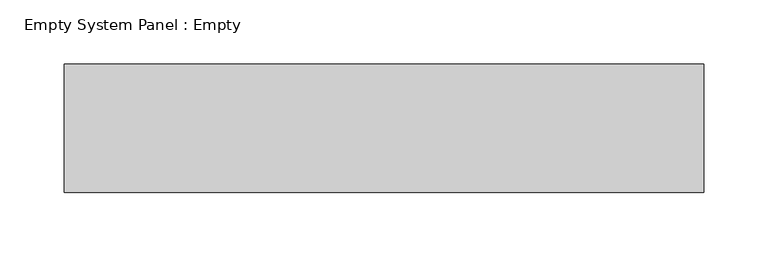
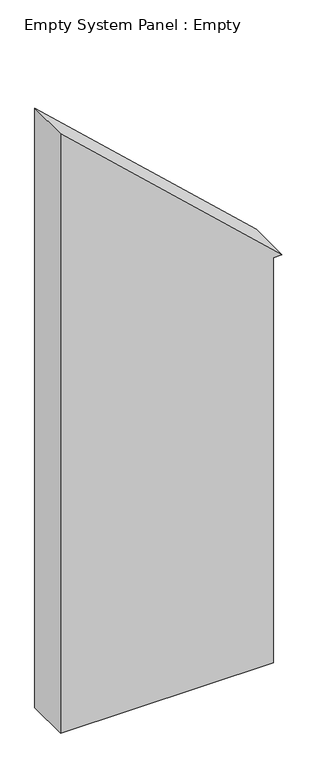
"""IFC4 building model written with IfcOpenShell, lengths in millimetres: plate geometry, Empty System Panel : Empty."""

from ifc_helpers import new_model, si_unit, frame, origin, place, context, project, spatial, polyline, outline, extrude, source, transform, mapped, element, save


def empty_system_panel_empty_1a654d63(model_context):
    return source(origin(), model_context, "Body", "SweptSolid", [
        extrude(outline(polyline([(0.0, -248.680783), (0.0, 228.680783), (959.3919612, 228.680783), (959.3919612, 248.680783), (1420.544006, -248.680783), (0.0, -248.680783)])), frame((0.0, -50.0, 0.0), z_axis=(0.0, 1.0, 0.0), x_axis=(0.0, 0.0, 1.0)), (0.0, 0.0, 1.0), 100.0),
    ])


if __name__ == "__main__":
    model = new_model("IFC4")
    model_context = context("Model", 3, world=origin())
    ifc_project = project(units=[si_unit("LENGTHUNIT", "METRE", prefix="MILLI")], contexts=[model_context])
    site = spatial("IfcSite", under=ifc_project)
    building = spatial("IfcBuilding", under=site)
    placement = place(None, origin())
    empty_system_panel_empty_shape = empty_system_panel_empty_1a654d63(model_context)
    element("IfcPlate", 1, ObjectType="Empty System Panel : Empty", at=placement, inside=building, context=model_context, shape_type="MappedRepresentation", body=[
        mapped(empty_system_panel_empty_shape, transform((0.0, 0.0, 0.0), x_axis=(1.0, 0.0, 0.0), y_axis=(0.0, 1.0, 0.0), z_axis=(0.0, 0.0, 1.0))),
    ])
    save(model, "model.ifc")
